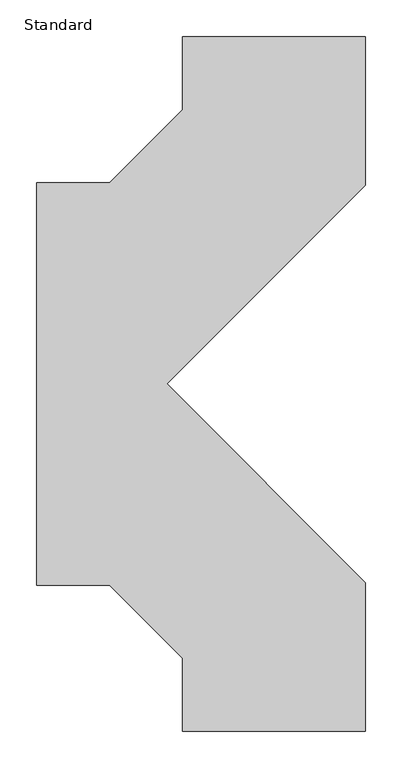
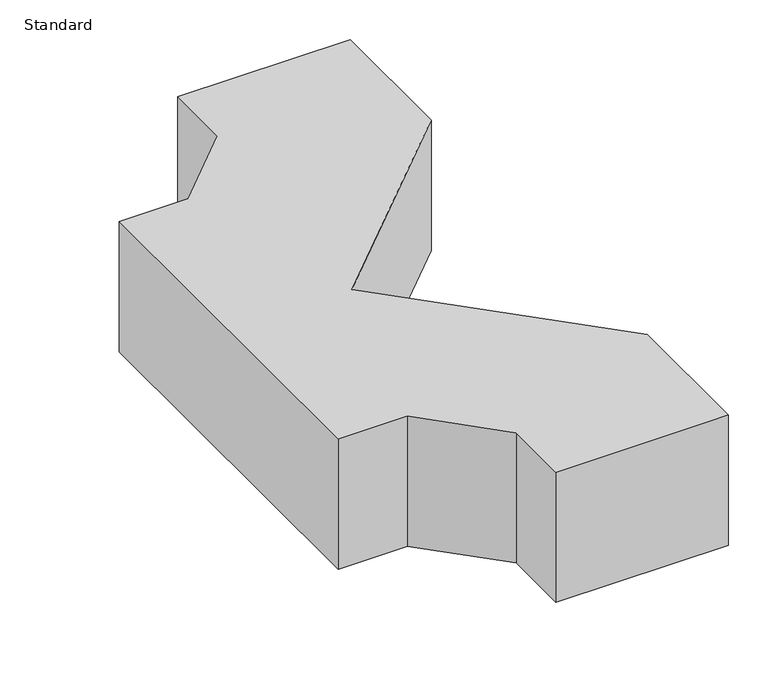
"""IFC4 building model written with IfcOpenShell, lengths in millimetres: duct fitting geometry, Pants_URSA AIR : Standard."""

from ifc_helpers import new_model, si_unit, frame, origin, place, context, project, spatial, polyline, outline, extrude, source, transform, mapped, element, save


def standard_2364ee26(model_context):
    return source(origin(), model_context, "Body", "SweptSolid", [
        extrude(outline(polyline([(100.0, 275.0), (200.0, 375.0), (200.0, 475.0), (450.0, 475.0), (450.0, 271.4466094), (178.5533906, 0.0), (450.0, -271.4466094), (450.0, -475.0), (200.0, -475.0), (200.0, -375.0), (100.0, -275.0), (0.0, -275.0), (0.0, 275.0), (100.0, 275.0)])), frame((0.0, 0.0, -100.0), z_axis=(0.0, 0.0, 1.0), x_axis=(1.0, 0.0, 0.0)), (0.0, 0.0, 1.0), 200.0),
    ])


if __name__ == "__main__":
    model = new_model("IFC4")
    model_context = context("Model", 3, world=origin())
    ifc_project = project(units=[si_unit("LENGTHUNIT", "METRE", prefix="MILLI")], contexts=[model_context])
    site = spatial("IfcSite", under=ifc_project)
    building = spatial("IfcBuilding", under=site)
    placement = place(None, origin())
    standard_shape = standard_2364ee26(model_context)
    element("IfcDuctFitting", 1, ObjectType="Pants_URSA AIR : Standard", at=placement, inside=building, context=model_context, shape_type="MappedRepresentation", body=[
        mapped(standard_shape, transform((0.0, 0.0, 0.0), x_axis=(1.0, 0.0, 0.0), y_axis=(0.0, 1.0, 0.0), z_axis=(0.0, 0.0, 1.0))),
    ])
    save(model, "model.ifc")
